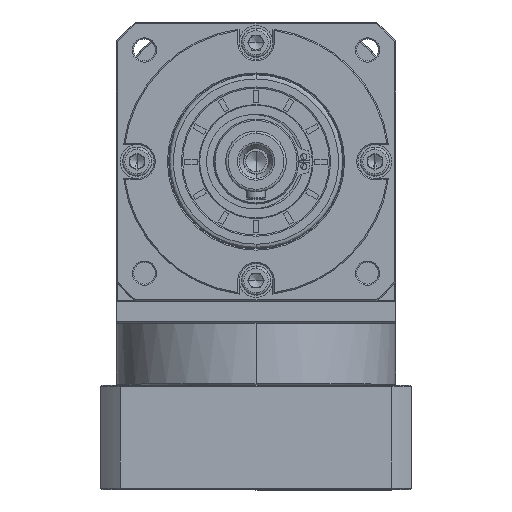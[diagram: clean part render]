
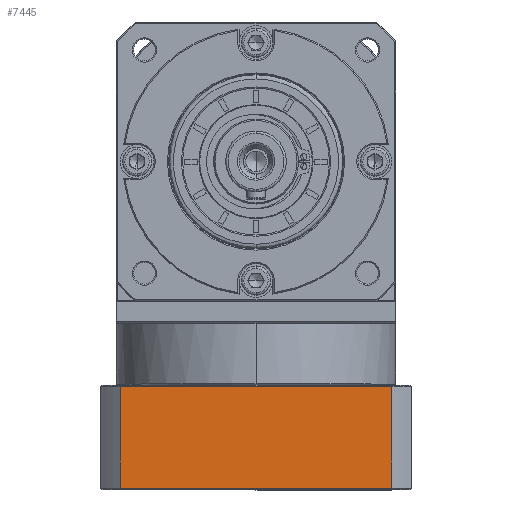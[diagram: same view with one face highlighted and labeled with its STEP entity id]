
A CAD part, top view. The second image highlights one B-rep face of the part: STEP entity #7445.
In plain terms, the highlighted planar face has unit normal (0, 0, 1).
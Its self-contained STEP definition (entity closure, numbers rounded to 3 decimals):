
#5556 = VECTOR ( 'NONE', #6152, 1000. ) ;
#6152 = DIRECTION ( 'NONE',  ( -1., 0., 0. ) ) ;
#7445 = ADVANCED_FACE ( 'NONE', ( #42580 ), #76467, .F. ) ;
#11625 = VERTEX_POINT ( 'NONE', #88527 ) ;
#12743 = DIRECTION ( 'NONE',  ( 0., -1., 0. ) ) ;
#16797 = ORIENTED_EDGE ( 'NONE', *, *, #168016, .F. ) ;
#25157 = CARTESIAN_POINT ( 'NONE',  ( -277.075, -146.271, 31.413 ) ) ;
#27559 = ORIENTED_EDGE ( 'NONE', *, *, #133175, .F. ) ;
#38644 = DIRECTION ( 'NONE',  ( 1., 0., 0. ) ) ;
#42098 = LINE ( 'NONE', #80576, #73476 ) ;
#42580 = FACE_OUTER_BOUND ( 'NONE', #80520, .T. ) ;
#50186 = DIRECTION ( 'NONE',  ( 0., 0., -1. ) ) ;
#67900 = VECTOR ( 'NONE', #38644, 1000. ) ;
#73476 = VECTOR ( 'NONE', #82284, 1000. ) ;
#76467 = PLANE ( 'NONE',  #143982 ) ;
#76659 = VERTEX_POINT ( 'NONE', #162297 ) ;
#80520 = EDGE_LOOP ( 'NONE', ( #27559, #124752, #161209, #16797 ) ) ;
#80576 = CARTESIAN_POINT ( 'NONE',  ( -269.012, -188.771, 31.413 ) ) ;
#82284 = DIRECTION ( 'NONE',  ( 0., 1., 0. ) ) ;
#84263 = VERTEX_POINT ( 'NONE', #120437 ) ;
#88527 = CARTESIAN_POINT ( 'NONE',  ( -269.012, -188.271, 31.413 ) ) ;
#99942 = CARTESIAN_POINT ( 'NONE',  ( -277.075, -188.271, 31.413 ) ) ;
#103248 = CARTESIAN_POINT ( 'NONE',  ( -269.012, -146.271, 31.413 ) ) ;
#113794 = EDGE_CURVE ( 'NONE', #11625, #132392, #42098, .T. ) ;
#120437 = CARTESIAN_POINT ( 'NONE',  ( -157.137, -146.271, 31.413 ) ) ;
#124752 = ORIENTED_EDGE ( 'NONE', *, *, #125907, .F. ) ;
#125907 = EDGE_CURVE ( 'NONE', #132392, #84263, #139152, .T. ) ;
#130430 = CARTESIAN_POINT ( 'NONE',  ( -277.075, -188.771, 31.413 ) ) ;
#132392 = VERTEX_POINT ( 'NONE', #103248 ) ;
#133175 = EDGE_CURVE ( 'NONE', #84263, #76659, #159924, .T. ) ;
#139152 = LINE ( 'NONE', #25157, #67900 ) ;
#143892 = DIRECTION ( 'NONE',  ( -1., 0., 0. ) ) ;
#143982 = AXIS2_PLACEMENT_3D ( 'NONE', #130430, #50186, #143892 ) ;
#144033 = LINE ( 'NONE', #99942, #5556 ) ;
#155690 = VECTOR ( 'NONE', #12743, 1000. ) ;
#159924 = LINE ( 'NONE', #173357, #155690 ) ;
#161209 = ORIENTED_EDGE ( 'NONE', *, *, #113794, .F. ) ;
#162297 = CARTESIAN_POINT ( 'NONE',  ( -157.137, -188.271, 31.413 ) ) ;
#168016 = EDGE_CURVE ( 'NONE', #76659, #11625, #144033, .T. ) ;
#173357 = CARTESIAN_POINT ( 'NONE',  ( -157.137, 106.643, 31.413 ) ) ;
